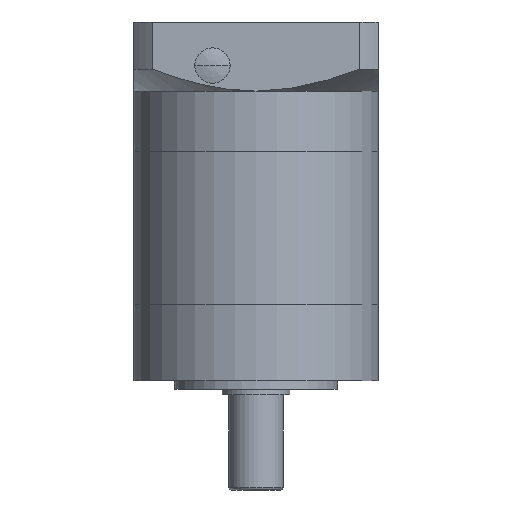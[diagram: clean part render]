
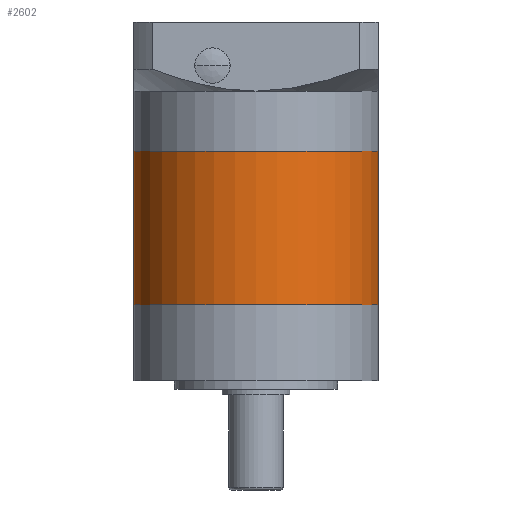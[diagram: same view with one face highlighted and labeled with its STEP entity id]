
A CAD part, front view. The second image highlights one B-rep face of the part: STEP entity #2602.
In plain terms, the highlighted cylindrical face has radius 45 mm (diameter 90 mm), a full revolution.
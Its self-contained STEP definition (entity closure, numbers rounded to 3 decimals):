
#538=FACE_BOUND('',#4184,.T.);
#539=FACE_BOUND('',#4185,.T.);
#1095=CYLINDRICAL_SURFACE('',#15149,45.);
#2602=ADVANCED_FACE('',(#538,#539),#1095,.T.);
#4184=EDGE_LOOP('',(#6382));
#4185=EDGE_LOOP('',(#6383));
#6382=ORIENTED_EDGE('',*,*,#11479,.T.);
#6383=ORIENTED_EDGE('',*,*,#11481,.T.);
#9734=VERTEX_POINT('',#24640);
#9736=VERTEX_POINT('',#24645);
#11479=EDGE_CURVE('',#9734,#9734,#13850,.T.);
#11481=EDGE_CURVE('',#9736,#9736,#13852,.T.);
#13850=CIRCLE('',#15140,45.);
#13852=CIRCLE('',#15143,45.);
#15140=AXIS2_PLACEMENT_3D('',#24639,#17726,#17727);
#15143=AXIS2_PLACEMENT_3D('',#24644,#17732,#17733);
#15149=AXIS2_PLACEMENT_3D('',#24655,#17744,#17745);
#17726=DIRECTION('',(0.,0.,1.));
#17727=DIRECTION('',(1.,0.,0.));
#17732=DIRECTION('',(0.,0.,-1.));
#17733=DIRECTION('',(1.,0.,0.));
#17744=DIRECTION('',(0.,0.,-1.));
#17745=DIRECTION('',(1.,0.,0.));
#24639=CARTESIAN_POINT('',(-0.042,-1.945,31.));
#24640=CARTESIAN_POINT('',(44.958,-1.945,31.));
#24644=CARTESIAN_POINT('',(-0.042,-1.945,87.5));
#24645=CARTESIAN_POINT('',(44.958,-1.945,87.5));
#24655=CARTESIAN_POINT('',(-0.042,-1.945,64.5));
